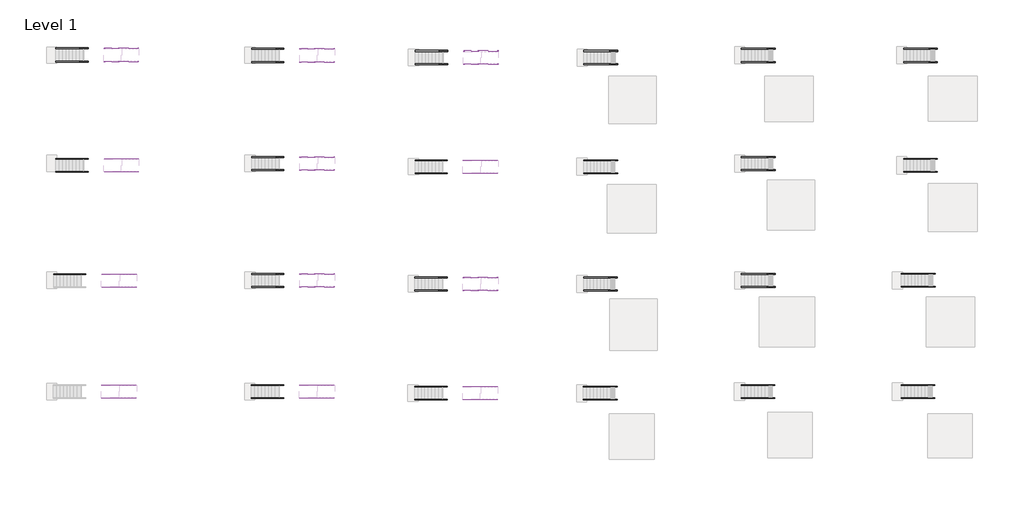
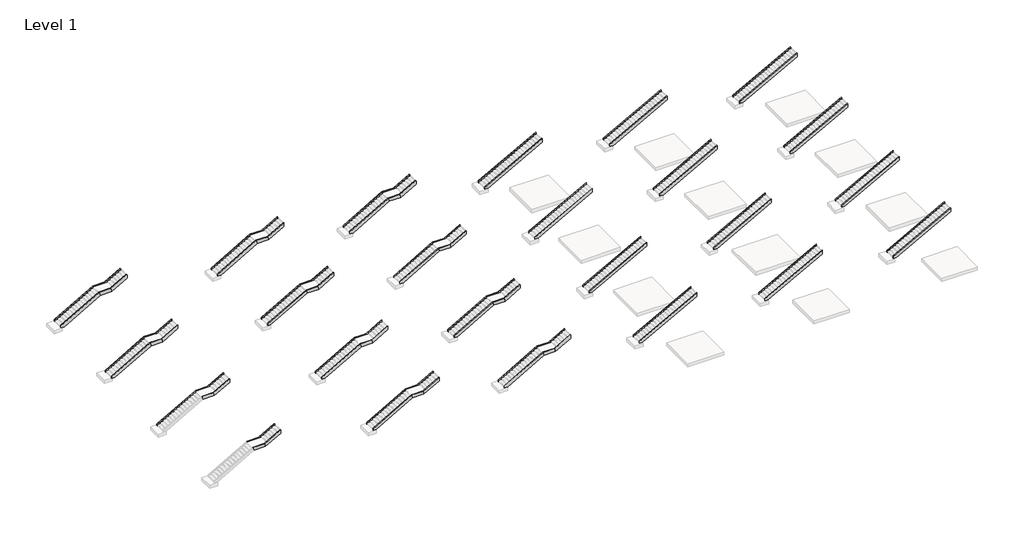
# One storey, part 2 of 2: 93 members.
"""IFC4 building model written with IfcOpenShell, lengths in millimetres."""

from ifc_helpers import new_model, si_unit, frame, origin, place, context, project, spatial, polyline, outline, extrude, element, save

model = new_model("IFC4")

# Units and contexts
model_context = context("Model", 3, world=origin())
ifc_project = project(units=[si_unit("LENGTHUNIT", "METRE", prefix="MILLI")], contexts=[model_context])

# Site, building, storey
site = spatial("IfcSite", under=ifc_project)
building = spatial("IfcBuilding", under=site)
storey = spatial("IfcBuildingStorey", under=building, Name="Level 1", Elevation=0.0)

# Members
placement = place(None, origin())
element("IfcMember", 1, at=placement, inside=storey, context=model_context, shape_type="SweptSolid", body=[
    extrude(outline(polyline([(179.7202068, -24008.9905791), (0.0, -24008.9905791), (0.0, -23709.1569007), (1923.1428571, -20343.6569007), (2227.9428571, -20424.6009411), (179.7202068, -24008.9905791)])), frame((0.0, 7438.0177722, 0.0), z_axis=(0.0, 1.0, 0.0), x_axis=(0.0, 0.0, 1.0)), (0.0, 0.0, 1.0), 50.8),
])
element("IfcMember", 2, at=placement, inside=storey, context=model_context, shape_type="SweptSolid", body=[
    extrude(outline(polyline([(179.7202068, -24008.9905791), (0.0, -24008.9905791), (0.0, -23709.1569007), (1923.1428571, -20343.6569007), (2227.9428571, -20424.6009411), (179.7202068, -24008.9905791)])), frame((0.0, 6472.8177722, 0.0), z_axis=(0.0, 1.0, 0.0), x_axis=(0.0, 0.0, 1.0)), (0.0, 0.0, 1.0), 50.8),
])
element("IfcMember", 3, at=placement, inside=storey, context=model_context, shape_type="SweptSolid", body=[
    extrude(outline(polyline([(2227.9428571, -19357.8009411), (1923.1428571, -19276.8569007), (2731.5236123, -17862.1905791), (3048.0, -17862.1905791), (3048.0, -17922.7009411), (2227.9428571, -19357.8009411)])), frame((0.0, 7438.0177722, 0.0), z_axis=(0.0, 1.0, 0.0), x_axis=(0.0, 0.0, 1.0)), (0.0, 0.0, 1.0), 50.8),
])
element("IfcMember", 4, at=placement, inside=storey, context=model_context, shape_type="SweptSolid", body=[
    extrude(outline(polyline([(2227.9428571, -19357.8009411), (1923.1428571, -19276.8569007), (2731.5236123, -17862.1905791), (3048.0, -17862.1905791), (3048.0, -17922.7009411), (2227.9428571, -19357.8009411)])), frame((0.0, 6472.8177722, 0.0), z_axis=(0.0, 1.0, 0.0), x_axis=(0.0, 0.0, 1.0)), (0.0, 0.0, 1.0), 50.8),
])
element("IfcMember", 5, at=placement, inside=storey, context=model_context, shape_type="SweptSolid", body=[
    extrude(outline(polyline([(1923.1428571, -19276.8569007), (2227.9428571, -19357.8009411), (2227.9428571, -20424.6009411), (1923.1428571, -20343.6569007), (1923.1428571, -19276.8569007)])), frame((0.0, 7438.0177722, 0.0), z_axis=(0.0, 1.0, 0.0), x_axis=(0.0, 0.0, 1.0)), (0.0, 0.0, 1.0), 50.8),
])
element("IfcMember", 6, at=placement, inside=storey, context=model_context, shape_type="SweptSolid", body=[
    extrude(outline(polyline([(2227.9428571, -20424.6009411), (1923.1428571, -20343.6569007), (1923.1428571, -19276.8569007), (2227.9428571, -19357.8009411), (2227.9428571, -20424.6009411)])), frame((0.0, 6472.8177722, 0.0), z_axis=(0.0, 1.0, 0.0), x_axis=(0.0, 0.0, 1.0)), (0.0, 0.0, 1.0), 50.8),
])
element("IfcMember", 7, at=placement, inside=storey, context=model_context, shape_type="SweptSolid", body=[
    extrude(outline(polyline([(177.8108406, -11475.3645607), (0.0, -11475.3645607), (0.0, -11164.8289261), (2740.0714721, -6141.3645607), (3087.265386, -6141.3645607), (177.8108406, -11475.3645607)])), frame((0.0, 7438.0177722, 0.0), z_axis=(0.0, 1.0, 0.0), x_axis=(0.0, 0.0, 1.0)), (0.0, 0.0, 1.0), 50.8),
])
element("IfcMember", 8, at=placement, inside=storey, context=model_context, shape_type="SweptSolid", body=[
    extrude(outline(polyline([(177.8108406, -11475.3645607), (0.0, -11475.3645607), (0.0, -11164.8289261), (2740.0714721, -6141.3645607), (3087.265386, -6141.3645607), (177.8108406, -11475.3645607)])), frame((0.0, 6472.8177722, 0.0), z_axis=(0.0, 1.0, 0.0), x_axis=(0.0, 0.0, 1.0)), (0.0, 0.0, 1.0), 50.8),
])
element("IfcMember", 9, at=placement, inside=storey, context=model_context, shape_type="SweptSolid", body=[
    extrude(outline(polyline([(177.8108406, -11461.3905791), (0.0, -11461.3905791), (0.0, -11150.8549446), (2740.0714721, -6127.3905791), (3087.265386, -6127.3905791), (177.8108406, -11461.3905791)])), frame((0.0, 15552.9127053, 0.0), z_axis=(0.0, 1.0, 0.0), x_axis=(0.0, 0.0, 1.0)), (0.0, 0.0, 1.0), 50.8),
])
element("IfcMember", 10, at=placement, inside=storey, context=model_context, shape_type="SweptSolid", body=[
    extrude(outline(polyline([(177.8108406, -11461.3905791), (0.0, -11461.3905791), (0.0, -11150.8549446), (2740.0714721, -6127.3905791), (3087.265386, -6127.3905791), (177.8108406, -11461.3905791)])), frame((0.0, 14587.7127053, 0.0), z_axis=(0.0, 1.0, 0.0), x_axis=(0.0, 0.0, 1.0)), (0.0, 0.0, 1.0), 50.8),
])
element("IfcMember", 11, at=placement, inside=storey, context=model_context, shape_type="SweptSolid", body=[
    extrude(outline(polyline([(177.8108406, -11447.4165976), (0.0, -11447.4165976), (0.0, -11136.880963), (2740.0714721, -6113.4165976), (3087.265386, -6113.4165976), (177.8108406, -11447.4165976)])), frame((0.0, 24277.4076385, 0.0), z_axis=(0.0, 1.0, 0.0), x_axis=(0.0, 0.0, 1.0)), (0.0, 0.0, 1.0), 50.8),
])
element("IfcMember", 12, at=placement, inside=storey, context=model_context, shape_type="SweptSolid", body=[
    extrude(outline(polyline([(177.8108406, -11447.4165976), (0.0, -11447.4165976), (0.0, -11136.880963), (2740.0714721, -6113.4165976), (3087.265386, -6113.4165976), (177.8108406, -11447.4165976)])), frame((0.0, 23312.2076385, 0.0), z_axis=(0.0, 1.0, 0.0), x_axis=(0.0, 0.0, 1.0)), (0.0, 0.0, 1.0), 50.8),
])
element("IfcMember", 13, at=placement, inside=storey, context=model_context, shape_type="SweptSolid", body=[
    extrude(outline(polyline([(177.8108406, -11433.442616), (0.0, -11433.442616), (0.0, -11122.9069815), (2740.0714721, -6099.442616), (3087.265386, -6099.442616), (177.8108406, -11433.442616)])), frame((0.0, 32392.3025717, 0.0), z_axis=(0.0, 1.0, 0.0), x_axis=(0.0, 0.0, 1.0)), (0.0, 0.0, 1.0), 76.2),
])
element("IfcMember", 14, at=placement, inside=storey, context=model_context, shape_type="SweptSolid", body=[
    extrude(outline(polyline([(177.8108406, -11433.442616), (0.0, -11433.442616), (0.0, -11122.9069815), (2740.0714721, -6099.442616), (3087.265386, -6099.442616), (177.8108406, -11433.442616)])), frame((0.0, 31401.7025717, 0.0), z_axis=(0.0, 1.0, 0.0), x_axis=(0.0, 0.0, 1.0)), (0.0, 0.0, 1.0), 76.2),
])
element("IfcMember", 15, at=placement, inside=storey, context=model_context, shape_type="SweptSolid", body=[
    extrude(outline(polyline([(177.8108406, 245.4614578), (0.0, 245.4614578), (0.0, 555.9970923), (2740.0714721, 5579.4614578), (3087.265386, 5579.4614578), (177.8108406, 245.4614578)])), frame((0.0, 7552.722839, 0.0), z_axis=(0.0, 1.0, 0.0), x_axis=(0.0, 0.0, 1.0)), (0.0, 0.0, 1.0), 50.8),
])
element("IfcMember", 16, at=placement, inside=storey, context=model_context, shape_type="SweptSolid", body=[
    extrude(outline(polyline([(177.8108406, 245.4614578), (0.0, 245.4614578), (0.0, 555.9970923), (2740.0714721, 5579.4614578), (3087.265386, 5579.4614578), (177.8108406, 245.4614578)])), frame((0.0, 6587.522839, 0.0), z_axis=(0.0, 1.0, 0.0), x_axis=(0.0, 0.0, 1.0)), (0.0, 0.0, 1.0), 50.8),
])
element("IfcMember", 17, at=placement, inside=storey, context=model_context, shape_type="SweptSolid", body=[
    extrude(outline(polyline([(177.8108406, 259.4354393), (0.0, 259.4354393), (0.0, 569.9710739), (2740.0714721, 5593.4354393), (3087.265386, 5593.4354393), (177.8108406, 259.4354393)])), frame((0.0, 15820.0177722, 0.0), z_axis=(0.0, 1.0, 0.0), x_axis=(0.0, 0.0, 1.0)), (0.0, 0.0, 1.0), 50.8),
])
element("IfcMember", 18, at=placement, inside=storey, context=model_context, shape_type="SweptSolid", body=[
    extrude(outline(polyline([(177.8108406, 259.4354393), (0.0, 259.4354393), (0.0, 569.9710739), (2740.0714721, 5593.4354393), (3087.265386, 5593.4354393), (177.8108406, 259.4354393)])), frame((0.0, 14854.8177722, 0.0), z_axis=(0.0, 1.0, 0.0), x_axis=(0.0, 0.0, 1.0)), (0.0, 0.0, 1.0), 50.8),
])
element("IfcMember", 19, at=placement, inside=storey, context=model_context, shape_type="SweptSolid", body=[
    extrude(outline(polyline([(177.8108406, 259.4354393), (0.0, 259.4354393), (0.0, 569.9710739), (2740.0714721, 5593.4354393), (3087.265386, 5593.4354393), (177.8108406, 259.4354393)])), frame((0.0, 24506.8177722, 0.0), z_axis=(0.0, 1.0, 0.0), x_axis=(0.0, 0.0, 1.0)), (0.0, 0.0, 1.0), 50.8),
])
element("IfcMember", 20, at=placement, inside=storey, context=model_context, shape_type="SweptSolid", body=[
    extrude(outline(polyline([(177.8108406, 259.4354393), (0.0, 259.4354393), (0.0, 569.9710739), (2740.0714721, 5593.4354393), (3087.265386, 5593.4354393), (177.8108406, 259.4354393)])), frame((0.0, 23541.6177722, 0.0), z_axis=(0.0, 1.0, 0.0), x_axis=(0.0, 0.0, 1.0)), (0.0, 0.0, 1.0), 50.8),
])
element("IfcMember", 21, at=placement, inside=storey, context=model_context, shape_type="SweptSolid", body=[
    extrude(outline(polyline([(177.8108406, 259.4354393), (0.0, 259.4354393), (0.0, 569.9710739), (2740.0714721, 5593.4354393), (3087.265386, 5593.4354393), (177.8108406, 259.4354393)])), frame((0.0, 32558.6177722, 0.0), z_axis=(0.0, 1.0, 0.0), x_axis=(0.0, 0.0, 1.0)), (0.0, 0.0, 1.0), 76.2),
])
element("IfcMember", 22, at=placement, inside=storey, context=model_context, shape_type="SweptSolid", body=[
    extrude(outline(polyline([(177.8108406, 259.4354393), (0.0, 259.4354393), (0.0, 569.9710739), (2740.0714721, 5593.4354393), (3087.265386, 5593.4354393), (177.8108406, 259.4354393)])), frame((0.0, 31568.0177722, 0.0), z_axis=(0.0, 1.0, 0.0), x_axis=(0.0, 0.0, 1.0)), (0.0, 0.0, 1.0), 76.2),
])
element("IfcMember", 23, at=placement, inside=storey, context=model_context, shape_type="SweptSolid", body=[
    extrude(outline(polyline([(177.8108406, 12132.6614578), (0.0, 12132.6614578), (0.0, 12443.1970923), (2740.0714721, 17466.6614578), (3087.265386, 17466.6614578), (177.8108406, 12132.6614578)])), frame((0.0, 7552.722839, 0.0), z_axis=(0.0, 1.0, 0.0), x_axis=(0.0, 0.0, 1.0)), (0.0, 0.0, 1.0), 50.8),
])
element("IfcMember", 24, at=placement, inside=storey, context=model_context, shape_type="SweptSolid", body=[
    extrude(outline(polyline([(177.8108406, 12132.6614578), (0.0, 12132.6614578), (0.0, 12443.1970923), (2740.0714721, 17466.6614578), (3087.265386, 17466.6614578), (177.8108406, 12132.6614578)])), frame((0.0, 6587.522839, 0.0), z_axis=(0.0, 1.0, 0.0), x_axis=(0.0, 0.0, 1.0)), (0.0, 0.0, 1.0), 50.8),
])
element("IfcMember", 25, at=placement, inside=storey, context=model_context, shape_type="SweptSolid", body=[
    extrude(outline(polyline([(177.8108406, 12146.6354393), (0.0, 12146.6354393), (0.0, 12457.1710739), (2740.0714721, 17480.6354393), (3087.265386, 17480.6354393), (177.8108406, 12146.6354393)])), frame((0.0, 15845.4177722, 0.0), z_axis=(0.0, 1.0, 0.0), x_axis=(0.0, 0.0, 1.0)), (0.0, 0.0, 1.0), 50.8),
])
element("IfcMember", 26, at=placement, inside=storey, context=model_context, shape_type="SweptSolid", body=[
    extrude(outline(polyline([(177.8108406, 12146.6354393), (0.0, 12146.6354393), (0.0, 12457.1710739), (2740.0714721, 17480.6354393), (3087.265386, 17480.6354393), (177.8108406, 12146.6354393)])), frame((0.0, 14880.2177722, 0.0), z_axis=(0.0, 1.0, 0.0), x_axis=(0.0, 0.0, 1.0)), (0.0, 0.0, 1.0), 50.8),
])
element("IfcMember", 27, at=placement, inside=storey, context=model_context, shape_type="SweptSolid", body=[
    extrude(outline(polyline([(177.8108406, 12310.0881748), (0.0, 12310.0881748), (0.0, 12620.6238094), (2740.0714721, 17644.0881748), (3087.265386, 17644.0881748), (177.8108406, 12310.0881748)])), frame((0.0, 24379.0076385, 0.0), z_axis=(0.0, 1.0, 0.0), x_axis=(0.0, 0.0, 1.0)), (0.0, 0.0, 1.0), 50.8),
])
element("IfcMember", 28, at=placement, inside=storey, context=model_context, shape_type="SweptSolid", body=[
    extrude(outline(polyline([(177.8108406, 12310.0881748), (0.0, 12310.0881748), (0.0, 12620.6238094), (2740.0714721, 17644.0881748), (3087.265386, 17644.0881748), (177.8108406, 12310.0881748)])), frame((0.0, 23413.8076385, 0.0), z_axis=(0.0, 1.0, 0.0), x_axis=(0.0, 0.0, 1.0)), (0.0, 0.0, 1.0), 50.8),
])
element("IfcMember", 29, at=placement, inside=storey, context=model_context, shape_type="SweptSolid", body=[
    extrude(outline(polyline([(177.8108406, 12310.0881748), (0.0, 12310.0881748), (0.0, 12620.6238094), (2740.0714721, 17644.0881748), (3087.265386, 17644.0881748), (177.8108406, 12310.0881748)])), frame((0.0, 32558.6177722, 0.0), z_axis=(0.0, 1.0, 0.0), x_axis=(0.0, 0.0, 1.0)), (0.0, 0.0, 1.0), 76.2),
])
element("IfcMember", 30, at=placement, inside=storey, context=model_context, shape_type="SweptSolid", body=[
    extrude(outline(polyline([(177.8108406, 12310.0881748), (0.0, 12310.0881748), (0.0, 12620.6238094), (2740.0714721, 17644.0881748), (3087.265386, 17644.0881748), (177.8108406, 12310.0881748)])), frame((0.0, 31568.0177722, 0.0), z_axis=(0.0, 1.0, 0.0), x_axis=(0.0, 0.0, 1.0)), (0.0, 0.0, 1.0), 76.2),
])
element("IfcMember", 31, at=placement, inside=storey, context=model_context, shape_type="SweptSolid", body=[
    extrude(outline(polyline([(179.7202068, -23995.0165976), (0.0, -23995.0165976), (0.0, -23695.1829191), (1923.1428571, -20329.6829191), (2227.9428571, -20410.6269595), (179.7202068, -23995.0165976)])), frame((0.0, 15552.9127053, 0.0), z_axis=(0.0, 1.0, 0.0), x_axis=(0.0, 0.0, 1.0)), (0.0, 0.0, 1.0), 50.8),
])
element("IfcMember", 32, at=placement, inside=storey, context=model_context, shape_type="SweptSolid", body=[
    extrude(outline(polyline([(179.7202068, -23995.0165976), (0.0, -23995.0165976), (0.0, -23695.1829191), (1923.1428571, -20329.6829191), (2227.9428571, -20410.6269595), (179.7202068, -23995.0165976)])), frame((0.0, 14587.7127053, 0.0), z_axis=(0.0, 1.0, 0.0), x_axis=(0.0, 0.0, 1.0)), (0.0, 0.0, 1.0), 50.8),
])
element("IfcMember", 33, at=placement, inside=storey, context=model_context, shape_type="SweptSolid", body=[
    extrude(outline(polyline([(2227.9428571, -19343.8269595), (1923.1428571, -19262.8829191), (2731.5236123, -17848.2165976), (3048.0, -17848.2165976), (3048.0, -17908.7269595), (2227.9428571, -19343.8269595)])), frame((0.0, 15552.9127053, 0.0), z_axis=(0.0, 1.0, 0.0), x_axis=(0.0, 0.0, 1.0)), (0.0, 0.0, 1.0), 50.8),
])
element("IfcMember", 34, at=placement, inside=storey, context=model_context, shape_type="SweptSolid", body=[
    extrude(outline(polyline([(2227.9428571, -19343.8269595), (1923.1428571, -19262.8829191), (2731.5236123, -17848.2165976), (3048.0, -17848.2165976), (3048.0, -17908.7269595), (2227.9428571, -19343.8269595)])), frame((0.0, 14587.7127053, 0.0), z_axis=(0.0, 1.0, 0.0), x_axis=(0.0, 0.0, 1.0)), (0.0, 0.0, 1.0), 50.8),
])
element("IfcMember", 35, at=placement, inside=storey, context=model_context, shape_type="SweptSolid", body=[
    extrude(outline(polyline([(1923.1428571, -19262.8829191), (2227.9428571, -19343.8269595), (2227.9428571, -20410.6269595), (1923.1428571, -20329.6829191), (1923.1428571, -19262.8829191)])), frame((0.0, 15552.9127053, 0.0), z_axis=(0.0, 1.0, 0.0), x_axis=(0.0, 0.0, 1.0)), (0.0, 0.0, 1.0), 50.8),
])
element("IfcMember", 36, at=placement, inside=storey, context=model_context, shape_type="SweptSolid", body=[
    extrude(outline(polyline([(2227.9428571, -20410.6269595), (1923.1428571, -20329.6829191), (1923.1428571, -19262.8829191), (2227.9428571, -19343.8269595), (2227.9428571, -20410.6269595)])), frame((0.0, 14587.7127053, 0.0), z_axis=(0.0, 1.0, 0.0), x_axis=(0.0, 0.0, 1.0)), (0.0, 0.0, 1.0), 50.8),
])
element("IfcMember", 37, at=placement, inside=storey, context=model_context, shape_type="SweptSolid", body=[
    extrude(outline(polyline([(179.7202068, -23981.042616), (0.0, -23981.042616), (0.0, -23681.2089376), (1923.1428571, -20315.7089376), (2227.9428571, -20396.652978), (179.7202068, -23981.042616)])), frame((0.0, 24277.4076385, 0.0), z_axis=(0.0, 1.0, 0.0), x_axis=(0.0, 0.0, 1.0)), (0.0, 0.0, 1.0), 50.8),
])
element("IfcMember", 38, at=placement, inside=storey, context=model_context, shape_type="SweptSolid", body=[
    extrude(outline(polyline([(179.7202068, -23981.042616), (0.0, -23981.042616), (0.0, -23681.2089376), (1923.1428571, -20315.7089376), (2227.9428571, -20396.652978), (179.7202068, -23981.042616)])), frame((0.0, 23312.2076385, 0.0), z_axis=(0.0, 1.0, 0.0), x_axis=(0.0, 0.0, 1.0)), (0.0, 0.0, 1.0), 50.8),
])
element("IfcMember", 39, at=placement, inside=storey, context=model_context, shape_type="SweptSolid", body=[
    extrude(outline(polyline([(2227.9428571, -19329.852978), (1923.1428571, -19248.9089376), (2731.5236123, -17834.242616), (3048.0, -17834.242616), (3048.0, -17894.752978), (2227.9428571, -19329.852978)])), frame((0.0, 24277.4076385, 0.0), z_axis=(0.0, 1.0, 0.0), x_axis=(0.0, 0.0, 1.0)), (0.0, 0.0, 1.0), 50.8),
])
element("IfcMember", 40, at=placement, inside=storey, context=model_context, shape_type="SweptSolid", body=[
    extrude(outline(polyline([(2227.9428571, -19329.852978), (1923.1428571, -19248.9089376), (2731.5236123, -17834.242616), (3048.0, -17834.242616), (3048.0, -17894.752978), (2227.9428571, -19329.852978)])), frame((0.0, 23312.2076385, 0.0), z_axis=(0.0, 1.0, 0.0), x_axis=(0.0, 0.0, 1.0)), (0.0, 0.0, 1.0), 50.8),
])
element("IfcMember", 41, at=placement, inside=storey, context=model_context, shape_type="SweptSolid", body=[
    extrude(outline(polyline([(1923.1428571, -19248.9089376), (2227.9428571, -19329.852978), (2227.9428571, -20396.652978), (1923.1428571, -20315.7089376), (1923.1428571, -19248.9089376)])), frame((0.0, 24277.4076385, 0.0), z_axis=(0.0, 1.0, 0.0), x_axis=(0.0, 0.0, 1.0)), (0.0, 0.0, 1.0), 50.8),
])
element("IfcMember", 42, at=placement, inside=storey, context=model_context, shape_type="SweptSolid", body=[
    extrude(outline(polyline([(2227.9428571, -20396.652978), (1923.1428571, -20315.7089376), (1923.1428571, -19248.9089376), (2227.9428571, -19329.852978), (2227.9428571, -20396.652978)])), frame((0.0, 23312.2076385, 0.0), z_axis=(0.0, 1.0, 0.0), x_axis=(0.0, 0.0, 1.0)), (0.0, 0.0, 1.0), 50.8),
])
element("IfcMember", 43, at=placement, inside=storey, context=model_context, shape_type="SweptSolid", body=[
    extrude(outline(polyline([(179.7202068, -23967.0686345), (0.0, -23967.0686345), (0.0, -23667.2349561), (1923.1428571, -20301.7349561), (2227.9428571, -20382.6789965), (179.7202068, -23967.0686345)])), frame((0.0, 32392.3025717, 0.0), z_axis=(0.0, 1.0, 0.0), x_axis=(0.0, 0.0, 1.0)), (0.0, 0.0, 1.0), 76.2),
])
element("IfcMember", 44, at=placement, inside=storey, context=model_context, shape_type="SweptSolid", body=[
    extrude(outline(polyline([(179.7202068, -23967.0686345), (0.0, -23967.0686345), (0.0, -23667.2349561), (1923.1428571, -20301.7349561), (2227.9428571, -20382.6789965), (179.7202068, -23967.0686345)])), frame((0.0, 31401.7025717, 0.0), z_axis=(0.0, 1.0, 0.0), x_axis=(0.0, 0.0, 1.0)), (0.0, 0.0, 1.0), 76.2),
])
element("IfcMember", 45, at=placement, inside=storey, context=model_context, shape_type="SweptSolid", body=[
    extrude(outline(polyline([(2227.9428571, -19315.8789965), (1923.1428571, -19234.9349561), (2731.5236123, -17820.2686345), (3048.0, -17820.2686345), (3048.0, -17880.7789965), (2227.9428571, -19315.8789965)])), frame((0.0, 32392.3025717, 0.0), z_axis=(0.0, 1.0, 0.0), x_axis=(0.0, 0.0, 1.0)), (0.0, 0.0, 1.0), 76.2),
])
element("IfcMember", 46, at=placement, inside=storey, context=model_context, shape_type="SweptSolid", body=[
    extrude(outline(polyline([(2227.9428571, -19315.8789965), (1923.1428571, -19234.9349561), (2731.5236123, -17820.2686345), (3048.0, -17820.2686345), (3048.0, -17880.7789965), (2227.9428571, -19315.8789965)])), frame((0.0, 31401.7025717, 0.0), z_axis=(0.0, 1.0, 0.0), x_axis=(0.0, 0.0, 1.0)), (0.0, 0.0, 1.0), 76.2),
])
element("IfcMember", 47, at=placement, inside=storey, context=model_context, shape_type="SweptSolid", body=[
    extrude(outline(polyline([(1923.1428571, -19234.9349561), (2227.9428571, -19315.8789965), (2227.9428571, -20382.6789965), (1923.1428571, -20301.7349561), (1923.1428571, -19234.9349561)])), frame((0.0, 32392.3025717, 0.0), z_axis=(0.0, 1.0, 0.0), x_axis=(0.0, 0.0, 1.0)), (0.0, 0.0, 1.0), 76.2),
])
element("IfcMember", 48, at=placement, inside=storey, context=model_context, shape_type="SweptSolid", body=[
    extrude(outline(polyline([(2227.9428571, -20382.6789965), (1923.1428571, -20301.7349561), (1923.1428571, -19234.9349561), (2227.9428571, -19315.8789965), (2227.9428571, -20382.6789965)])), frame((0.0, 31401.7025717, 0.0), z_axis=(0.0, 1.0, 0.0), x_axis=(0.0, 0.0, 1.0)), (0.0, 0.0, 1.0), 76.2),
])
element("IfcMember", 49, at=placement, inside=storey, context=model_context, shape_type="SweptSolid", body=[
    extrude(outline(polyline([(179.7202068, -36139.6453515), (0.0, -36139.6453515), (0.0, -35839.8116731), (1923.1428571, -32474.3116731), (2227.9428571, -32555.2557135), (179.7202068, -36139.6453515)])), frame((0.0, 7552.722839, 0.0), z_axis=(0.0, 1.0, 0.0), x_axis=(0.0, 0.0, 1.0)), (0.0, 0.0, 1.0), 50.8),
])
element("IfcMember", 50, at=placement, inside=storey, context=model_context, shape_type="SweptSolid", body=[
    extrude(outline(polyline([(179.7202068, -36139.6453515), (0.0, -36139.6453515), (0.0, -35839.8116731), (1923.1428571, -32474.3116731), (2227.9428571, -32555.2557135), (179.7202068, -36139.6453515)])), frame((0.0, 6587.522839, 0.0), z_axis=(0.0, 1.0, 0.0), x_axis=(0.0, 0.0, 1.0)), (0.0, 0.0, 1.0), 50.8),
])
element("IfcMember", 51, at=placement, inside=storey, context=model_context, shape_type="SweptSolid", body=[
    extrude(outline(polyline([(2227.9428571, -31488.4557135), (1923.1428571, -31407.5116731), (2731.5236123, -29992.8453515), (3048.0, -29992.8453515), (3048.0, -30053.3557135), (2227.9428571, -31488.4557135)])), frame((0.0, 7552.722839, 0.0), z_axis=(0.0, 1.0, 0.0), x_axis=(0.0, 0.0, 1.0)), (0.0, 0.0, 1.0), 50.8),
])
element("IfcMember", 52, at=placement, inside=storey, context=model_context, shape_type="SweptSolid", body=[
    extrude(outline(polyline([(2227.9428571, -31488.4557135), (1923.1428571, -31407.5116731), (2731.5236123, -29992.8453515), (3048.0, -29992.8453515), (3048.0, -30053.3557135), (2227.9428571, -31488.4557135)])), frame((0.0, 6587.522839, 0.0), z_axis=(0.0, 1.0, 0.0), x_axis=(0.0, 0.0, 1.0)), (0.0, 0.0, 1.0), 50.8),
])
element("IfcMember", 53, at=placement, inside=storey, context=model_context, shape_type="SweptSolid", body=[
    extrude(outline(polyline([(1923.1428571, -31407.5116731), (2227.9428571, -31488.4557135), (2227.9428571, -32555.2557135), (1923.1428571, -32474.3116731), (1923.1428571, -31407.5116731)])), frame((0.0, 7552.722839, 0.0), z_axis=(0.0, 1.0, 0.0), x_axis=(0.0, 0.0, 1.0)), (0.0, 0.0, 1.0), 50.8),
])
element("IfcMember", 54, at=placement, inside=storey, context=model_context, shape_type="SweptSolid", body=[
    extrude(outline(polyline([(2227.9428571, -32555.2557135), (1923.1428571, -32474.3116731), (1923.1428571, -31407.5116731), (2227.9428571, -31488.4557135), (2227.9428571, -32555.2557135)])), frame((0.0, 6587.522839, 0.0), z_axis=(0.0, 1.0, 0.0), x_axis=(0.0, 0.0, 1.0)), (0.0, 0.0, 1.0), 50.8),
])
element("IfcMember", 55, at=placement, inside=storey, context=model_context, shape_type="SweptSolid", body=[
    extrude(outline(polyline([(179.7202068, -36125.67137), (0.0, -36125.67137), (0.0, -35825.8376915), (1923.1428571, -32460.3376915), (2227.9428571, -32541.281732), (179.7202068, -36125.67137)])), frame((0.0, 15820.0177722, 0.0), z_axis=(0.0, 1.0, 0.0), x_axis=(0.0, 0.0, 1.0)), (0.0, 0.0, 1.0), 50.8),
])
element("IfcMember", 56, at=placement, inside=storey, context=model_context, shape_type="SweptSolid", body=[
    extrude(outline(polyline([(179.7202068, -36125.67137), (0.0, -36125.67137), (0.0, -35825.8376915), (1923.1428571, -32460.3376915), (2227.9428571, -32541.281732), (179.7202068, -36125.67137)])), frame((0.0, 14854.8177722, 0.0), z_axis=(0.0, 1.0, 0.0), x_axis=(0.0, 0.0, 1.0)), (0.0, 0.0, 1.0), 50.8),
])
element("IfcMember", 57, at=placement, inside=storey, context=model_context, shape_type="SweptSolid", body=[
    extrude(outline(polyline([(2227.9428571, -31474.481732), (1923.1428571, -31393.5376915), (2731.5236123, -29978.87137), (3048.0, -29978.87137), (3048.0, -30039.381732), (2227.9428571, -31474.481732)])), frame((0.0, 15820.0177722, 0.0), z_axis=(0.0, 1.0, 0.0), x_axis=(0.0, 0.0, 1.0)), (0.0, 0.0, 1.0), 50.8),
])
element("IfcMember", 58, at=placement, inside=storey, context=model_context, shape_type="SweptSolid", body=[
    extrude(outline(polyline([(2227.9428571, -31474.481732), (1923.1428571, -31393.5376915), (2731.5236123, -29978.87137), (3048.0, -29978.87137), (3048.0, -30039.381732), (2227.9428571, -31474.481732)])), frame((0.0, 14854.8177722, 0.0), z_axis=(0.0, 1.0, 0.0), x_axis=(0.0, 0.0, 1.0)), (0.0, 0.0, 1.0), 50.8),
])
element("IfcMember", 59, at=placement, inside=storey, context=model_context, shape_type="SweptSolid", body=[
    extrude(outline(polyline([(1923.1428571, -31393.5376915), (2227.9428571, -31474.481732), (2227.9428571, -32541.281732), (1923.1428571, -32460.3376915), (1923.1428571, -31393.5376915)])), frame((0.0, 15820.0177722, 0.0), z_axis=(0.0, 1.0, 0.0), x_axis=(0.0, 0.0, 1.0)), (0.0, 0.0, 1.0), 50.8),
])
element("IfcMember", 60, at=placement, inside=storey, context=model_context, shape_type="SweptSolid", body=[
    extrude(outline(polyline([(2227.9428571, -32541.281732), (1923.1428571, -32460.3376915), (1923.1428571, -31393.5376915), (2227.9428571, -31474.481732), (2227.9428571, -32541.281732)])), frame((0.0, 14854.8177722, 0.0), z_axis=(0.0, 1.0, 0.0), x_axis=(0.0, 0.0, 1.0)), (0.0, 0.0, 1.0), 50.8),
])
element("IfcMember", 61, at=placement, inside=storey, context=model_context, shape_type="SweptSolid", body=[
    extrude(outline(polyline([(179.7202068, -36125.67137), (0.0, -36125.67137), (0.0, -35825.8376915), (1923.1428571, -32460.3376915), (2227.9428571, -32541.281732), (179.7202068, -36125.67137)])), frame((0.0, 24506.8177722, 0.0), z_axis=(0.0, 1.0, 0.0), x_axis=(0.0, 0.0, 1.0)), (0.0, 0.0, 1.0), 50.8),
])
element("IfcMember", 62, at=placement, inside=storey, context=model_context, shape_type="SweptSolid", body=[
    extrude(outline(polyline([(179.7202068, -36125.67137), (0.0, -36125.67137), (0.0, -35825.8376915), (1923.1428571, -32460.3376915), (2227.9428571, -32541.281732), (179.7202068, -36125.67137)])), frame((0.0, 23541.6177722, 0.0), z_axis=(0.0, 1.0, 0.0), x_axis=(0.0, 0.0, 1.0)), (0.0, 0.0, 1.0), 50.8),
])
element("IfcMember", 63, at=placement, inside=storey, context=model_context, shape_type="SweptSolid", body=[
    extrude(outline(polyline([(2227.9428571, -31474.481732), (1923.1428571, -31393.5376915), (2731.5236123, -29978.87137), (3048.0, -29978.87137), (3048.0, -30039.381732), (2227.9428571, -31474.481732)])), frame((0.0, 24506.8177722, 0.0), z_axis=(0.0, 1.0, 0.0), x_axis=(0.0, 0.0, 1.0)), (0.0, 0.0, 1.0), 50.8),
])
element("IfcMember", 64, at=placement, inside=storey, context=model_context, shape_type="SweptSolid", body=[
    extrude(outline(polyline([(2227.9428571, -31474.481732), (1923.1428571, -31393.5376915), (2731.5236123, -29978.87137), (3048.0, -29978.87137), (3048.0, -30039.381732), (2227.9428571, -31474.481732)])), frame((0.0, 23541.6177722, 0.0), z_axis=(0.0, 1.0, 0.0), x_axis=(0.0, 0.0, 1.0)), (0.0, 0.0, 1.0), 50.8),
])
element("IfcMember", 65, at=placement, inside=storey, context=model_context, shape_type="SweptSolid", body=[
    extrude(outline(polyline([(1923.1428571, -31393.5376915), (2227.9428571, -31474.481732), (2227.9428571, -32541.281732), (1923.1428571, -32460.3376915), (1923.1428571, -31393.5376915)])), frame((0.0, 24506.8177722, 0.0), z_axis=(0.0, 1.0, 0.0), x_axis=(0.0, 0.0, 1.0)), (0.0, 0.0, 1.0), 50.8),
])
element("IfcMember", 66, at=placement, inside=storey, context=model_context, shape_type="SweptSolid", body=[
    extrude(outline(polyline([(2227.9428571, -32541.281732), (1923.1428571, -32460.3376915), (1923.1428571, -31393.5376915), (2227.9428571, -31474.481732), (2227.9428571, -32541.281732)])), frame((0.0, 23541.6177722, 0.0), z_axis=(0.0, 1.0, 0.0), x_axis=(0.0, 0.0, 1.0)), (0.0, 0.0, 1.0), 50.8),
])
element("IfcMember", 67, at=placement, inside=storey, context=model_context, shape_type="SweptSolid", body=[
    extrude(outline(polyline([(179.7202068, -36125.67137), (0.0, -36125.67137), (0.0, -35825.8376915), (1923.1428571, -32460.3376915), (2227.9428571, -32541.281732), (179.7202068, -36125.67137)])), frame((0.0, 32558.6177722, 0.0), z_axis=(0.0, 1.0, 0.0), x_axis=(0.0, 0.0, 1.0)), (0.0, 0.0, 1.0), 76.2),
])
element("IfcMember", 68, at=placement, inside=storey, context=model_context, shape_type="SweptSolid", body=[
    extrude(outline(polyline([(179.7202068, -36125.67137), (0.0, -36125.67137), (0.0, -35825.8376915), (1923.1428571, -32460.3376915), (2227.9428571, -32541.281732), (179.7202068, -36125.67137)])), frame((0.0, 31568.0177722, 0.0), z_axis=(0.0, 1.0, 0.0), x_axis=(0.0, 0.0, 1.0)), (0.0, 0.0, 1.0), 76.2),
])
element("IfcMember", 69, at=placement, inside=storey, context=model_context, shape_type="SweptSolid", body=[
    extrude(outline(polyline([(2227.9428571, -31474.481732), (1923.1428571, -31393.5376915), (2731.5236123, -29978.87137), (3048.0, -29978.87137), (3048.0, -30039.381732), (2227.9428571, -31474.481732)])), frame((0.0, 32558.6177722, 0.0), z_axis=(0.0, 1.0, 0.0), x_axis=(0.0, 0.0, 1.0)), (0.0, 0.0, 1.0), 76.2),
])
element("IfcMember", 70, at=placement, inside=storey, context=model_context, shape_type="SweptSolid", body=[
    extrude(outline(polyline([(2227.9428571, -31474.481732), (1923.1428571, -31393.5376915), (2731.5236123, -29978.87137), (3048.0, -29978.87137), (3048.0, -30039.381732), (2227.9428571, -31474.481732)])), frame((0.0, 31568.0177722, 0.0), z_axis=(0.0, 1.0, 0.0), x_axis=(0.0, 0.0, 1.0)), (0.0, 0.0, 1.0), 76.2),
])
element("IfcMember", 71, at=placement, inside=storey, context=model_context, shape_type="SweptSolid", body=[
    extrude(outline(polyline([(1923.1428571, -31393.5376915), (2227.9428571, -31474.481732), (2227.9428571, -32541.281732), (1923.1428571, -32460.3376915), (1923.1428571, -31393.5376915)])), frame((0.0, 32558.6177722, 0.0), z_axis=(0.0, 1.0, 0.0), x_axis=(0.0, 0.0, 1.0)), (0.0, 0.0, 1.0), 76.2),
])
element("IfcMember", 72, at=placement, inside=storey, context=model_context, shape_type="SweptSolid", body=[
    extrude(outline(polyline([(2227.9428571, -32541.281732), (1923.1428571, -32460.3376915), (1923.1428571, -31393.5376915), (2227.9428571, -31474.481732), (2227.9428571, -32541.281732)])), frame((0.0, 31568.0177722, 0.0), z_axis=(0.0, 1.0, 0.0), x_axis=(0.0, 0.0, 1.0)), (0.0, 0.0, 1.0), 76.2),
])
element("IfcMember", 73, at=placement, inside=storey, context=model_context, shape_type="SweptSolid", body=[
    extrude(outline(polyline([(2227.9428571, -46208.1489042), (1923.1428571, -46127.2048637), (2731.5236123, -44712.5385422), (3048.0, -44712.5385422), (3048.0, -44773.0489042), (2227.9428571, -46208.1489042)])), frame((0.0, 7552.722839, 0.0), z_axis=(0.0, 1.0, 0.0), x_axis=(0.0, 0.0, 1.0)), (0.0, 0.0, 1.0), 50.8),
])
element("IfcMember", 74, at=placement, inside=storey, context=model_context, shape_type="SweptSolid", body=[
    extrude(outline(polyline([(2227.9428571, -46208.1489042), (1923.1428571, -46127.2048637), (2731.5236123, -44712.5385422), (3048.0, -44712.5385422), (3048.0, -44773.0489042), (2227.9428571, -46208.1489042)])), frame((0.0, 6587.522839, 0.0), z_axis=(0.0, 1.0, 0.0), x_axis=(0.0, 0.0, 1.0)), (0.0, 0.0, 1.0), 50.8),
])
element("IfcMember", 75, at=placement, inside=storey, context=model_context, shape_type="SweptSolid", body=[
    extrude(outline(polyline([(1923.1428571, -46127.2048637), (2227.9428571, -46208.1489042), (2227.9428571, -47274.9489042), (1923.1428571, -47194.0048637), (1923.1428571, -46127.2048637)])), frame((0.0, 7552.722839, 0.0), z_axis=(0.0, 1.0, 0.0), x_axis=(0.0, 0.0, 1.0)), (0.0, 0.0, 1.0), 50.8),
])
element("IfcMember", 76, at=placement, inside=storey, context=model_context, shape_type="SweptSolid", body=[
    extrude(outline(polyline([(2227.9428571, -47274.9489042), (1923.1428571, -47194.0048637), (1923.1428571, -46127.2048637), (2227.9428571, -46208.1489042), (2227.9428571, -47274.9489042)])), frame((0.0, 6587.522839, 0.0), z_axis=(0.0, 1.0, 0.0), x_axis=(0.0, 0.0, 1.0)), (0.0, 0.0, 1.0), 50.8),
])
element("IfcMember", 77, at=placement, inside=storey, context=model_context, shape_type="SweptSolid", body=[
    extrude(outline(polyline([(179.7202068, -50845.3645607), (0.0, -50845.3645607), (0.0, -50545.5308822), (1923.1428571, -47180.0308822), (2227.9428571, -47260.9749226), (179.7202068, -50845.3645607)])), frame((0.0, 15794.6177722, 0.0), z_axis=(0.0, 1.0, 0.0), x_axis=(0.0, 0.0, 1.0)), (0.0, 0.0, 1.0), 50.8),
])
element("IfcMember", 78, at=placement, inside=storey, context=model_context, shape_type="SweptSolid", body=[
    extrude(outline(polyline([(2227.9428571, -46194.1749226), (1923.1428571, -46113.2308822), (2731.5236123, -44698.5645607), (3048.0, -44698.5645607), (3048.0, -44759.0749226), (2227.9428571, -46194.1749226)])), frame((0.0, 15794.6177722, 0.0), z_axis=(0.0, 1.0, 0.0), x_axis=(0.0, 0.0, 1.0)), (0.0, 0.0, 1.0), 50.8),
])
element("IfcMember", 79, at=placement, inside=storey, context=model_context, shape_type="SweptSolid", body=[
    extrude(outline(polyline([(2227.9428571, -46194.1749226), (1923.1428571, -46113.2308822), (2731.5236123, -44698.5645607), (3048.0, -44698.5645607), (3048.0, -44759.0749226), (2227.9428571, -46194.1749226)])), frame((0.0, 14829.4177722, 0.0), z_axis=(0.0, 1.0, 0.0), x_axis=(0.0, 0.0, 1.0)), (0.0, 0.0, 1.0), 50.8),
])
element("IfcMember", 80, at=placement, inside=storey, context=model_context, shape_type="SweptSolid", body=[
    extrude(outline(polyline([(1923.1428571, -46113.2308822), (2227.9428571, -46194.1749226), (2227.9428571, -47260.9749226), (1923.1428571, -47180.0308822), (1923.1428571, -46113.2308822)])), frame((0.0, 15794.6177722, 0.0), z_axis=(0.0, 1.0, 0.0), x_axis=(0.0, 0.0, 1.0)), (0.0, 0.0, 1.0), 50.8),
])
element("IfcMember", 81, at=placement, inside=storey, context=model_context, shape_type="SweptSolid", body=[
    extrude(outline(polyline([(2227.9428571, -47260.9749226), (1923.1428571, -47180.0308822), (1923.1428571, -46113.2308822), (2227.9428571, -46194.1749226), (2227.9428571, -47260.9749226)])), frame((0.0, 14829.4177722, 0.0), z_axis=(0.0, 1.0, 0.0), x_axis=(0.0, 0.0, 1.0)), (0.0, 0.0, 1.0), 50.8),
])
element("IfcMember", 82, at=placement, inside=storey, context=model_context, shape_type="SweptSolid", body=[
    extrude(outline(polyline([(179.7202068, -50681.9118252), (0.0, -50681.9118252), (0.0, -50382.0781467), (1923.1428571, -47016.5781467), (2227.9428571, -47097.5221871), (179.7202068, -50681.9118252)])), frame((0.0, 24379.0076385, 0.0), z_axis=(0.0, 1.0, 0.0), x_axis=(0.0, 0.0, 1.0)), (0.0, 0.0, 1.0), 50.8),
])
element("IfcMember", 83, at=placement, inside=storey, context=model_context, shape_type="SweptSolid", body=[
    extrude(outline(polyline([(179.7202068, -50681.9118252), (0.0, -50681.9118252), (0.0, -50382.0781467), (1923.1428571, -47016.5781467), (2227.9428571, -47097.5221871), (179.7202068, -50681.9118252)])), frame((0.0, 23413.8076385, 0.0), z_axis=(0.0, 1.0, 0.0), x_axis=(0.0, 0.0, 1.0)), (0.0, 0.0, 1.0), 50.8),
])
element("IfcMember", 84, at=placement, inside=storey, context=model_context, shape_type="SweptSolid", body=[
    extrude(outline(polyline([(2227.9428571, -46030.7221871), (1923.1428571, -45949.7781467), (2731.5236123, -44535.1118252), (3048.0, -44535.1118252), (3048.0, -44595.6221871), (2227.9428571, -46030.7221871)])), frame((0.0, 24379.0076385, 0.0), z_axis=(0.0, 1.0, 0.0), x_axis=(0.0, 0.0, 1.0)), (0.0, 0.0, 1.0), 50.8),
])
element("IfcMember", 85, at=placement, inside=storey, context=model_context, shape_type="SweptSolid", body=[
    extrude(outline(polyline([(2227.9428571, -46030.7221871), (1923.1428571, -45949.7781467), (2731.5236123, -44535.1118252), (3048.0, -44535.1118252), (3048.0, -44595.6221871), (2227.9428571, -46030.7221871)])), frame((0.0, 23413.8076385, 0.0), z_axis=(0.0, 1.0, 0.0), x_axis=(0.0, 0.0, 1.0)), (0.0, 0.0, 1.0), 50.8),
])
element("IfcMember", 86, at=placement, inside=storey, context=model_context, shape_type="SweptSolid", body=[
    extrude(outline(polyline([(1923.1428571, -45949.7781467), (2227.9428571, -46030.7221871), (2227.9428571, -47097.5221871), (1923.1428571, -47016.5781467), (1923.1428571, -45949.7781467)])), frame((0.0, 24379.0076385, 0.0), z_axis=(0.0, 1.0, 0.0), x_axis=(0.0, 0.0, 1.0)), (0.0, 0.0, 1.0), 50.8),
])
element("IfcMember", 87, at=placement, inside=storey, context=model_context, shape_type="SweptSolid", body=[
    extrude(outline(polyline([(2227.9428571, -47097.5221871), (1923.1428571, -47016.5781467), (1923.1428571, -45949.7781467), (2227.9428571, -46030.7221871), (2227.9428571, -47097.5221871)])), frame((0.0, 23413.8076385, 0.0), z_axis=(0.0, 1.0, 0.0), x_axis=(0.0, 0.0, 1.0)), (0.0, 0.0, 1.0), 50.8),
])
element("IfcMember", 88, at=placement, inside=storey, context=model_context, shape_type="SweptSolid", body=[
    extrude(outline(polyline([(179.7202068, -50681.9118252), (0.0, -50681.9118252), (0.0, -50382.0781467), (1923.1428571, -47016.5781467), (2227.9428571, -47097.5221871), (179.7202068, -50681.9118252)])), frame((0.0, 32584.0177722, 0.0), z_axis=(0.0, 1.0, 0.0), x_axis=(0.0, 0.0, 1.0)), (0.0, 0.0, 1.0), 76.2),
])
element("IfcMember", 89, at=placement, inside=storey, context=model_context, shape_type="SweptSolid", body=[
    extrude(outline(polyline([(179.7202068, -50681.9118252), (0.0, -50681.9118252), (0.0, -50382.0781467), (1923.1428571, -47016.5781467), (2227.9428571, -47097.5221871), (179.7202068, -50681.9118252)])), frame((0.0, 31593.4177722, 0.0), z_axis=(0.0, 1.0, 0.0), x_axis=(0.0, 0.0, 1.0)), (0.0, 0.0, 1.0), 76.2),
])
element("IfcMember", 90, at=placement, inside=storey, context=model_context, shape_type="SweptSolid", body=[
    extrude(outline(polyline([(2227.9428571, -46030.7221871), (1923.1428571, -45949.7781467), (2731.5236123, -44535.1118252), (3048.0, -44535.1118252), (3048.0, -44595.6221871), (2227.9428571, -46030.7221871)])), frame((0.0, 32584.0177722, 0.0), z_axis=(0.0, 1.0, 0.0), x_axis=(0.0, 0.0, 1.0)), (0.0, 0.0, 1.0), 76.2),
])
element("IfcMember", 91, at=placement, inside=storey, context=model_context, shape_type="SweptSolid", body=[
    extrude(outline(polyline([(2227.9428571, -46030.7221871), (1923.1428571, -45949.7781467), (2731.5236123, -44535.1118252), (3048.0, -44535.1118252), (3048.0, -44595.6221871), (2227.9428571, -46030.7221871)])), frame((0.0, 31593.4177722, 0.0), z_axis=(0.0, 1.0, 0.0), x_axis=(0.0, 0.0, 1.0)), (0.0, 0.0, 1.0), 76.2),
])
element("IfcMember", 92, at=placement, inside=storey, context=model_context, shape_type="SweptSolid", body=[
    extrude(outline(polyline([(1923.1428571, -45949.7781467), (2227.9428571, -46030.7221871), (2227.9428571, -47097.5221871), (1923.1428571, -47016.5781467), (1923.1428571, -45949.7781467)])), frame((0.0, 32584.0177722, 0.0), z_axis=(0.0, 1.0, 0.0), x_axis=(0.0, 0.0, 1.0)), (0.0, 0.0, 1.0), 76.2),
])
element("IfcMember", 93, at=placement, inside=storey, context=model_context, shape_type="SweptSolid", body=[
    extrude(outline(polyline([(2227.9428571, -47097.5221871), (1923.1428571, -47016.5781467), (1923.1428571, -45949.7781467), (2227.9428571, -46030.7221871), (2227.9428571, -47097.5221871)])), frame((0.0, 31593.4177722, 0.0), z_axis=(0.0, 1.0, 0.0), x_axis=(0.0, 0.0, 1.0)), (0.0, 0.0, 1.0), 76.2),
])

save(model, "model.ifc")
